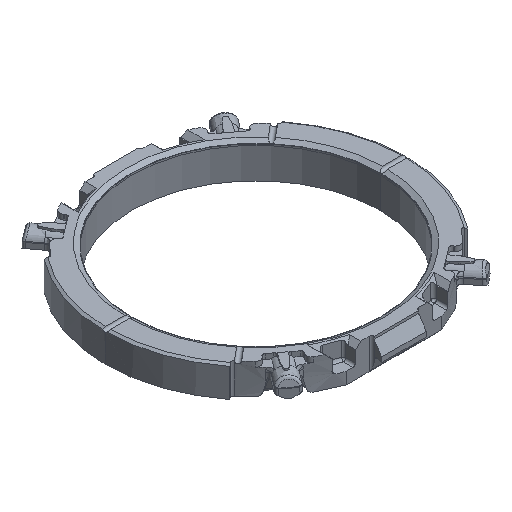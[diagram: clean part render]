
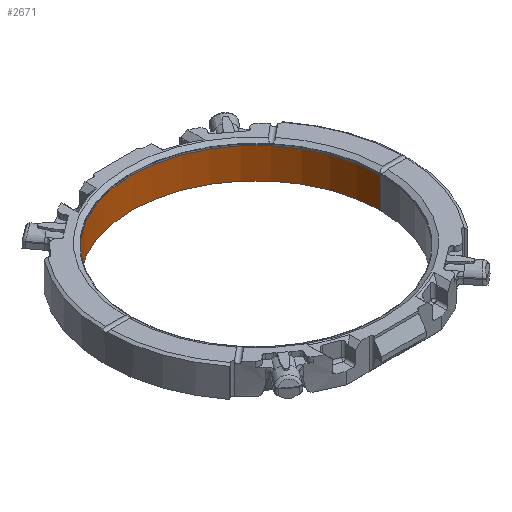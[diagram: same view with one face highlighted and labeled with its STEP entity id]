
A CAD part, isometric view. The second image highlights one B-rep face of the part: STEP entity #2671.
In plain terms, the highlighted cylindrical face has radius 24.8 mm (diameter 49.6 mm), a partial arc.
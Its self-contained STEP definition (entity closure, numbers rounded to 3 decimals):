
#61=CARTESIAN_POINT('',(-24.8,-0.,-2.2));
#62=VERTEX_POINT('',#61);
#70=CARTESIAN_POINT('',(-12.4,21.477,-2.2));
#71=VERTEX_POINT('',#70);
#72=CARTESIAN_POINT('',(-0.,-0.,-2.2));
#73=DIRECTION('',(-0.,0.,-1.));
#74=DIRECTION('',(-1.,-0.,0.));
#75=AXIS2_PLACEMENT_3D('',#72,#73,#74);
#76=CIRCLE('',#75,24.8);
#77=EDGE_CURVE('',#62,#71,#76,.T.);
#118=CARTESIAN_POINT('',(24.8,-0.,-2.2));
#119=VERTEX_POINT('',#118);
#120=CARTESIAN_POINT('',(-0.,-0.,-2.2));
#121=DIRECTION('',(-0.,0.,-1.));
#122=DIRECTION('',(-1.,-0.,0.));
#123=AXIS2_PLACEMENT_3D('',#120,#121,#122);
#124=CIRCLE('',#123,24.8);
#125=EDGE_CURVE('',#71,#119,#124,.T.);
#2603=CARTESIAN_POINT('',(-24.8,-0.,3.9));
#2604=VERTEX_POINT('',#2603);
#2611=CARTESIAN_POINT('',(24.8,-0.,3.9));
#2612=VERTEX_POINT('',#2611);
#2613=CARTESIAN_POINT('',(0.,-0.,3.9));
#2614=DIRECTION('',(-0.,0.,-1.));
#2615=DIRECTION('',(-1.,-0.,0.));
#2616=AXIS2_PLACEMENT_3D('',#2613,#2614,#2615);
#2617=CIRCLE('',#2616,24.8);
#2618=EDGE_CURVE('',#2604,#2612,#2617,.T.);
#2649=CARTESIAN_POINT('',(0.,-0.,3.9));
#2650=DIRECTION('',(-0.,0.,-1.));
#2651=DIRECTION('',(-1.,-0.,0.));
#2652=AXIS2_PLACEMENT_3D('',#2649,#2650,#2651);
#2653=CYLINDRICAL_SURFACE('',#2652,24.8);
#2654=ORIENTED_EDGE('',*,*,#2618,.F.);
#2655=CARTESIAN_POINT('',(-24.8,-0.,3.9));
#2656=DIRECTION('',(-0.,0.,-1.));
#2657=VECTOR('',#2656,6.1);
#2658=LINE('',#2655,#2657);
#2659=EDGE_CURVE('',#2604,#62,#2658,.T.);
#2660=ORIENTED_EDGE('',*,*,#2659,.T.);
#2661=ORIENTED_EDGE('',*,*,#77,.T.);
#2662=ORIENTED_EDGE('',*,*,#125,.T.);
#2663=CARTESIAN_POINT('',(24.8,-0.,3.9));
#2664=DIRECTION('',(-0.,0.,-1.));
#2665=VECTOR('',#2664,6.1);
#2666=LINE('',#2663,#2665);
#2667=EDGE_CURVE('',#2612,#119,#2666,.T.);
#2668=ORIENTED_EDGE('',*,*,#2667,.F.);
#2669=EDGE_LOOP('',(#2654,#2660,#2661,#2662,#2668));
#2670=FACE_BOUND('',#2669,.T.);
#2671=ADVANCED_FACE('',(#2670),#2653,.F.);
